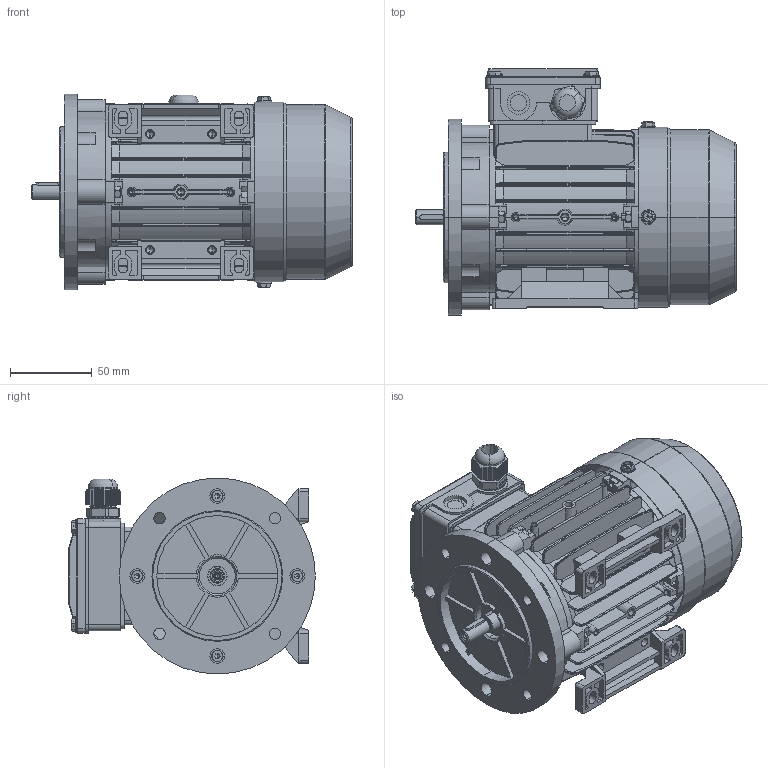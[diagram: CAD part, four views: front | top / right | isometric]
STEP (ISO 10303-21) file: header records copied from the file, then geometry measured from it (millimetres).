
FILE_DESCRIPTION (( 'STEP AP203' ), '1' );
FILE_NAME ('D56 assembly B35.STEP', '2018-11-19T06:04:38', ( 'user' ), ( 'china' ), 'SwSTEP 2.0', 'SolidWorks 2016', '' );
FILE_SCHEMA (( 'CONFIG_CONTROL_DESIGN' ));
Length unit declared in the file: millimetre
Products named in the file (16): M56瑞欶; GB-T 29.2-1988 M4鞠褒坋趼湍菜_05; GB-T 41-2000 M4; MS56 綴裔瑞欶郪磁; M56傷裔B3_N; M56儂褲; MS56諉盄碟釱(苤)_1Hole; M56-Shaft drive end_R; GB-T 5780-2000 M4_020; M56傷裔B5; M16 cable gland; D56 assembly B35; MS56諉盄碟(苤); GB-T 70.1-2000 M4_18; M56菁褐; MS56諉盄碟裔(苤)_MS56
Assembly tree (29 placements, depth 3):
  D56 assembly B35
    M56儂褲
    M56-Shaft drive end_R
    MS56 綴裔瑞欶郪磁
      M56傷裔B3_N
      M56瑞欶
      GB-T 29.2-1988 M4鞠褒坋趼湍菜_05  x3
    GB-T 41-2000 M4  x5
    GB-T 70.1-2000 M4_18  x4
    GB-T 5780-2000 M4_020
    M56菁褐  x2
    MS56諉盄碟(苤)
      MS56諉盄碟釱(苤)_1Hole
      MS56諉盄碟裔(苤)_MS56
      GB-T 29.2-1988 M4鞠褒坋趼湍菜_05  x4
      M16 cable gland
    M56傷裔B5
Bounding box: 196.5 x 151 x 120 mm (x, y, z)
Volume: 337870.5 mm3; surface area: 299233.6 mm2
Topology: 27 solids, 27 shells, 3239 faces, 8184 edges, 5035 vertices
Faces by surface type: plane 1414, cylinder 967, cone 382, bspline 302, torus 97, sphere 77
Entity records: 99220 total; most frequent: CARTESIAN_POINT 36468, ORIENTED_EDGE 13182, DIRECTION 11994, EDGE_CURVE 6591, AXIS2_PLACEMENT_3D 4282, VERTEX_POINT 4167, VECTOR 3430, LINE 3430
